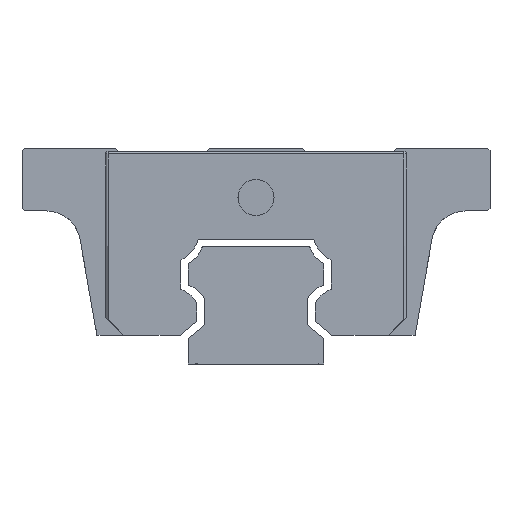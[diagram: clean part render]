
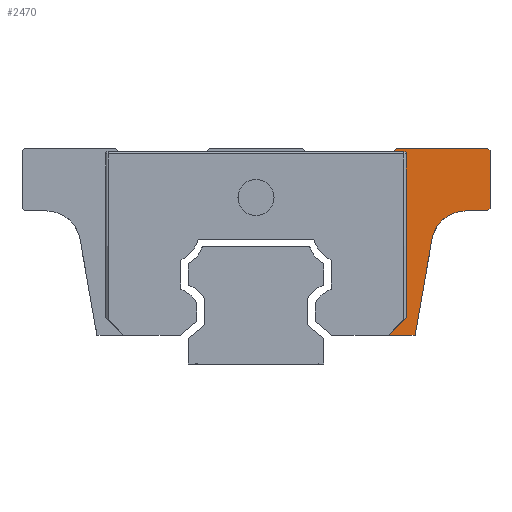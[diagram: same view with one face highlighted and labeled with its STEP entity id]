
A CAD part, left-side view. The second image highlights one B-rep face of the part: STEP entity #2470.
In plain terms, the highlighted planar face has unit normal (-1, 0, 0).
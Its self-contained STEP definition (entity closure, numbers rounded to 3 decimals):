
#108 = VERTEX_POINT ( 'NONE', #5181 ) ;
#142 = EDGE_CURVE ( 'NONE', #2287, #5093, #526, .T. ) ;
#222 = CARTESIAN_POINT ( 'NONE',  ( -19.75, -19.561, 13.901 ) ) ;
#243 = LINE ( 'NONE', #2112, #662 ) ;
#259 = DIRECTION ( 'NONE',  ( 0., -0.174, 0.985 ) ) ;
#286 = EDGE_LOOP ( 'NONE', ( #3463, #5045, #5601, #2929, #3736, #3760, #2188, #3002, #3432, #5759, #3735, #1090, #5952 ) ) ;
#340 = AXIS2_PLACEMENT_3D ( 'NONE', #4601, #371, #2244 ) ;
#371 = DIRECTION ( 'NONE',  ( 1., 0., 0. ) ) ;
#377 = CIRCLE ( 'NONE', #3826, 3.75 ) ;
#386 = DIRECTION ( 'NONE',  ( 0., 0.707, 0.707 ) ) ;
#419 = LINE ( 'NONE', #2294, #4336 ) ;
#431 = DIRECTION ( 'NONE',  ( 0., 0., 1. ) ) ;
#526 = LINE ( 'NONE', #2402, #4255 ) ;
#601 = VECTOR ( 'NONE', #898, 1000. ) ;
#639 = CARTESIAN_POINT ( 'NONE',  ( -19.75, -15.6, 24. ) ) ;
#662 = VECTOR ( 'NONE', #4001, 1000. ) ;
#831 = VECTOR ( 'NONE', #431, 1000. ) ;
#865 = VERTEX_POINT ( 'NONE', #6097 ) ;
#898 = DIRECTION ( 'NONE',  ( 0., 1., 0. ) ) ;
#935 = DIRECTION ( 'NONE',  ( 0., 0., 1. ) ) ;
#991 = CARTESIAN_POINT ( 'NONE',  ( -19.75, -14.696, 3.2 ) ) ;
#1050 = CARTESIAN_POINT ( 'NONE',  ( -19.75, -14.696, 3.2 ) ) ;
#1090 = ORIENTED_EDGE ( 'NONE', *, *, #3931, .T. ) ;
#1202 = EDGE_CURVE ( 'NONE', #5578, #2504, #3873, .T. ) ;
#1255 = CARTESIAN_POINT ( 'NONE',  ( -19.75, -26., 17.26 ) ) ;
#1275 = CARTESIAN_POINT ( 'NONE',  ( -19.75, -16.702, 5.2 ) ) ;
#1401 = PLANE ( 'NONE',  #2748 ) ;
#1521 = DIRECTION ( 'NONE',  ( 0., -1., 0. ) ) ;
#1693 = DIRECTION ( 'NONE',  ( 0., 0., 1. ) ) ;
#1704 = EDGE_CURVE ( 'NONE', #5093, #2997, #243, .T. ) ;
#1955 = VECTOR ( 'NONE', #386, 1000. ) ;
#2020 = VECTOR ( 'NONE', #1521, 1000. ) ;
#2112 = CARTESIAN_POINT ( 'NONE',  ( -19.75, -9.264, 0.524 ) ) ;
#2188 = ORIENTED_EDGE ( 'NONE', *, *, #4002, .T. ) ;
#2244 = DIRECTION ( 'NONE',  ( 0., 0., 1. ) ) ;
#2287 = VERTEX_POINT ( 'NONE', #3244 ) ;
#2294 = CARTESIAN_POINT ( 'NONE',  ( -19.75, -15.6, 24. ) ) ;
#2319 = VERTEX_POINT ( 'NONE', #4981 ) ;
#2385 = CARTESIAN_POINT ( 'NONE',  ( -19.75, -17.674, 3.2 ) ) ;
#2402 = CARTESIAN_POINT ( 'NONE',  ( -19.75, -20.108, 17. ) ) ;
#2470 = ADVANCED_FACE ( 'NONE', ( #5632 ), #1401, .T. ) ;
#2504 = VERTEX_POINT ( 'NONE', #2385 ) ;
#2526 = CARTESIAN_POINT ( 'NONE',  ( -19.75, -26., 24. ) ) ;
#2598 = LINE ( 'NONE', #4485, #2900 ) ;
#2731 = LINE ( 'NONE', #4616, #1955 ) ;
#2748 = AXIS2_PLACEMENT_3D ( 'NONE', #3285, #5165, #935 ) ;
#2776 = LINE ( 'NONE', #4660, #831 ) ;
#2900 = VECTOR ( 'NONE', #259, 1000. ) ;
#2929 = ORIENTED_EDGE ( 'NONE', *, *, #3864, .T. ) ;
#2934 = DIRECTION ( 'NONE',  ( 0., -0.707, 0.707 ) ) ;
#2997 = VERTEX_POINT ( 'NONE', #1255 ) ;
#2998 = CIRCLE ( 'NONE', #340, 0.26 ) ;
#3002 = ORIENTED_EDGE ( 'NONE', *, *, #5106, .T. ) ;
#3010 = VERTEX_POINT ( 'NONE', #3169 ) ;
#3158 = DIRECTION ( 'NONE',  ( 0., 0., 1. ) ) ;
#3169 = CARTESIAN_POINT ( 'NONE',  ( -19.75, -26., 23.74 ) ) ;
#3170 = VECTOR ( 'NONE', #2934, 1000. ) ;
#3244 = CARTESIAN_POINT ( 'NONE',  ( -19.75, -23.254, 17. ) ) ;
#3247 = LINE ( 'NONE', #5125, #601 ) ;
#3259 = EDGE_CURVE ( 'NONE', #2319, #4309, #5503, .T. ) ;
#3285 = CARTESIAN_POINT ( 'NONE',  ( -19.75, -6.587, 3.2 ) ) ;
#3331 = EDGE_CURVE ( 'NONE', #865, #108, #3247, .T. ) ;
#3432 = ORIENTED_EDGE ( 'NONE', *, *, #5674, .T. ) ;
#3463 = ORIENTED_EDGE ( 'NONE', *, *, #3483, .F. ) ;
#3483 = EDGE_CURVE ( 'NONE', #5578, #2319, #5276, .T. ) ;
#3735 = ORIENTED_EDGE ( 'NONE', *, *, #3331, .F. ) ;
#3736 = ORIENTED_EDGE ( 'NONE', *, *, #142, .T. ) ;
#3760 = ORIENTED_EDGE ( 'NONE', *, *, #1704, .T. ) ;
#3801 = VERTEX_POINT ( 'NONE', #222 ) ;
#3826 = AXIS2_PLACEMENT_3D ( 'NONE', #4044, #5927, #1693 ) ;
#3864 = EDGE_CURVE ( 'NONE', #3801, #2287, #377, .T. ) ;
#3873 = LINE ( 'NONE', #5754, #2020 ) ;
#3931 = EDGE_CURVE ( 'NONE', #865, #4309, #2998, .T. ) ;
#4001 = DIRECTION ( 'NONE',  ( 0., -0.707, 0.707 ) ) ;
#4002 = EDGE_CURVE ( 'NONE', #2997, #3010, #2776, .T. ) ;
#4040 = VECTOR ( 'NONE', #4416, 1000. ) ;
#4044 = CARTESIAN_POINT ( 'NONE',  ( -19.75, -23.254, 13.25 ) ) ;
#4122 = CARTESIAN_POINT ( 'NONE',  ( -19.75, -25.74, 17. ) ) ;
#4183 = DIRECTION ( 'NONE',  ( 0., 0.643, -0.766 ) ) ;
#4255 = VECTOR ( 'NONE', #4289, 1000. ) ;
#4289 = DIRECTION ( 'NONE',  ( 0., -1., 0. ) ) ;
#4309 = VERTEX_POINT ( 'NONE', #4859 ) ;
#4336 = VECTOR ( 'NONE', #4183, 1000. ) ;
#4393 = EDGE_CURVE ( 'NONE', #2504, #3801, #2598, .T. ) ;
#4416 = DIRECTION ( 'NONE',  ( 0., 1., 0. ) ) ;
#4485 = CARTESIAN_POINT ( 'NONE',  ( -19.75, -17.674, 3.2 ) ) ;
#4601 = CARTESIAN_POINT ( 'NONE',  ( -19.75, -16.442, 23.335 ) ) ;
#4616 = CARTESIAN_POINT ( 'NONE',  ( -19.75, -26.564, 23.176 ) ) ;
#4639 = VECTOR ( 'NONE', #3158, 1000. ) ;
#4660 = CARTESIAN_POINT ( 'NONE',  ( -19.75, -26., 17. ) ) ;
#4859 = CARTESIAN_POINT ( 'NONE',  ( -19.75, -16.702, 23.335 ) ) ;
#4949 = CARTESIAN_POINT ( 'NONE',  ( -19.75, -25.74, 24. ) ) ;
#4981 = CARTESIAN_POINT ( 'NONE',  ( -19.75, -16.702, 5.206 ) ) ;
#5045 = ORIENTED_EDGE ( 'NONE', *, *, #1202, .T. ) ;
#5093 = VERTEX_POINT ( 'NONE', #4122 ) ;
#5106 = EDGE_CURVE ( 'NONE', #3010, #5164, #2731, .T. ) ;
#5125 = CARTESIAN_POINT ( 'NONE',  ( -19.75, -18.027, 23.595 ) ) ;
#5142 = EDGE_CURVE ( 'NONE', #5989, #108, #419, .T. ) ;
#5164 = VERTEX_POINT ( 'NONE', #4949 ) ;
#5165 = DIRECTION ( 'NONE',  ( -1., 0., 0. ) ) ;
#5181 = CARTESIAN_POINT ( 'NONE',  ( -19.75, -15.26, 23.595 ) ) ;
#5276 = LINE ( 'NONE', #1050, #3170 ) ;
#5342 = LINE ( 'NONE', #2526, #4040 ) ;
#5503 = LINE ( 'NONE', #1275, #4639 ) ;
#5578 = VERTEX_POINT ( 'NONE', #991 ) ;
#5601 = ORIENTED_EDGE ( 'NONE', *, *, #4393, .T. ) ;
#5632 = FACE_OUTER_BOUND ( 'NONE', #286, .T. ) ;
#5674 = EDGE_CURVE ( 'NONE', #5164, #5989, #5342, .T. ) ;
#5754 = CARTESIAN_POINT ( 'NONE',  ( -19.75, -8.424, 3.2 ) ) ;
#5759 = ORIENTED_EDGE ( 'NONE', *, *, #5142, .T. ) ;
#5927 = DIRECTION ( 'NONE',  ( 1., 0., 0. ) ) ;
#5952 = ORIENTED_EDGE ( 'NONE', *, *, #3259, .F. ) ;
#5989 = VERTEX_POINT ( 'NONE', #639 ) ;
#6097 = CARTESIAN_POINT ( 'NONE',  ( -19.75, -16.442, 23.595 ) ) ;
